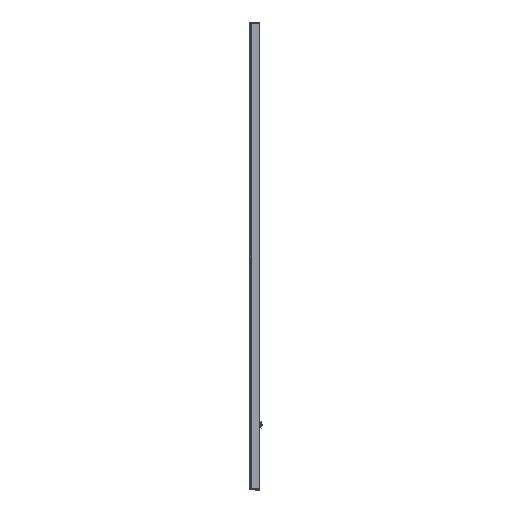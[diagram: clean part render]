
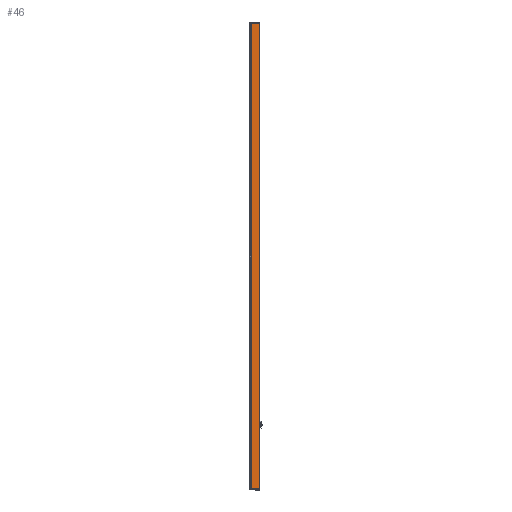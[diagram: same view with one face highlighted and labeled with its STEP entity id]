
A CAD part, left-side view. The second image highlights one B-rep face of the part: STEP entity #46.
In plain terms, the highlighted planar face has unit normal (-1, 0, 0).
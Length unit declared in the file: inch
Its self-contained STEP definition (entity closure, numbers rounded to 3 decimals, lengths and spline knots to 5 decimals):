
#46 = ADVANCED_FACE ( 'NONE', ( #1416 ), #4274, .F. ) ;
#72 = VERTEX_POINT ( 'NONE', #4475 ) ;
#73 = VERTEX_POINT ( 'NONE', #4473 ) ;
#103 = VERTEX_POINT ( 'NONE', #4442 ) ;
#105 = VERTEX_POINT ( 'NONE', #4439 ) ;
#620 = LINE ( 'NONE', #3240, #624 ) ;
#624 = VECTOR ( 'NONE', #3238, 39.37008 ) ;
#1079 = AXIS2_PLACEMENT_3D ( 'NONE', #4275, #4268, #4266 ) ;
#1416 = FACE_OUTER_BOUND ( 'NONE', #2813, .T. ) ;
#2595 = LINE ( 'NONE', #3237, #2604 ) ;
#2596 = LINE ( 'NONE', #3241, #2598 ) ;
#2598 = VECTOR ( 'NONE', #3236, 39.37008 ) ;
#2604 = VECTOR ( 'NONE', #3228, 39.37008 ) ;
#2610 = LINE ( 'NONE', #3223, #2611 ) ;
#2611 = VECTOR ( 'NONE', #3222, 39.37008 ) ;
#2704 = EDGE_CURVE ( 'NONE', #73, #72, #620, .T. ) ;
#2705 = EDGE_CURVE ( 'NONE', #73, #105, #2596, .T. ) ;
#2708 = EDGE_CURVE ( 'NONE', #103, #72, #2595, .T. ) ;
#2711 = EDGE_CURVE ( 'NONE', #105, #103, #2610, .T. ) ;
#2813 = EDGE_LOOP ( 'NONE', ( #4391, #4392, #4393, #4394 ) ) ;
#3222 = DIRECTION ( 'NONE',  ( 0., -1., 0. ) ) ;
#3223 = CARTESIAN_POINT ( 'NONE',  ( -19.5235, -0.06, 15.6485 ) ) ;
#3228 = DIRECTION ( 'NONE',  ( 0., 0., -1. ) ) ;
#3236 = DIRECTION ( 'NONE',  ( 0., 0., 1. ) ) ;
#3237 = CARTESIAN_POINT ( 'NONE',  ( -19.5235, -0.63, 15.7245 ) ) ;
#3238 = DIRECTION ( 'NONE',  ( 0., -1., 0. ) ) ;
#3240 = CARTESIAN_POINT ( 'NONE',  ( -19.5235, -0.06, -15.6485 ) ) ;
#3241 = CARTESIAN_POINT ( 'NONE',  ( -19.5235, -0.06, 15.7245 ) ) ;
#4266 = DIRECTION ( 'NONE',  ( 0., 1., 0. ) ) ;
#4268 = DIRECTION ( 'NONE',  ( 1., 0., 0. ) ) ;
#4274 = PLANE ( 'NONE',  #1079 ) ;
#4275 = CARTESIAN_POINT ( 'NONE',  ( -19.5235, -0.63, 15.7245 ) ) ;
#4391 = ORIENTED_EDGE ( 'NONE', *, *, #2705, .F. ) ;
#4392 = ORIENTED_EDGE ( 'NONE', *, *, #2704, .T. ) ;
#4393 = ORIENTED_EDGE ( 'NONE', *, *, #2708, .F. ) ;
#4394 = ORIENTED_EDGE ( 'NONE', *, *, #2711, .F. ) ;
#4439 = CARTESIAN_POINT ( 'NONE',  ( -19.5235, -0.06, 15.6485 ) ) ;
#4442 = CARTESIAN_POINT ( 'NONE',  ( -19.5235, -0.63, 15.6485 ) ) ;
#4473 = CARTESIAN_POINT ( 'NONE',  ( -19.5235, -0.06, -15.6485 ) ) ;
#4475 = CARTESIAN_POINT ( 'NONE',  ( -19.5235, -0.63, -15.6485 ) ) ;
